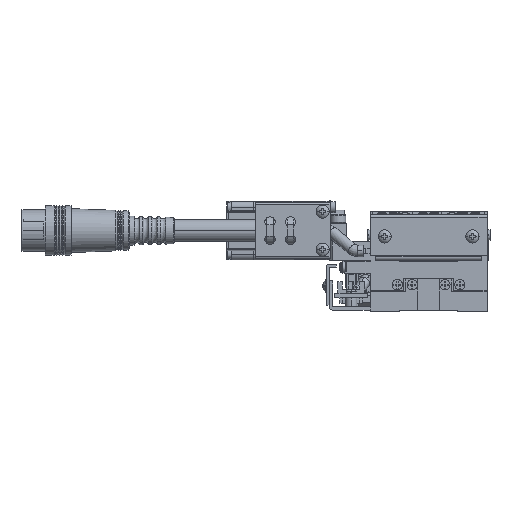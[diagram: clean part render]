
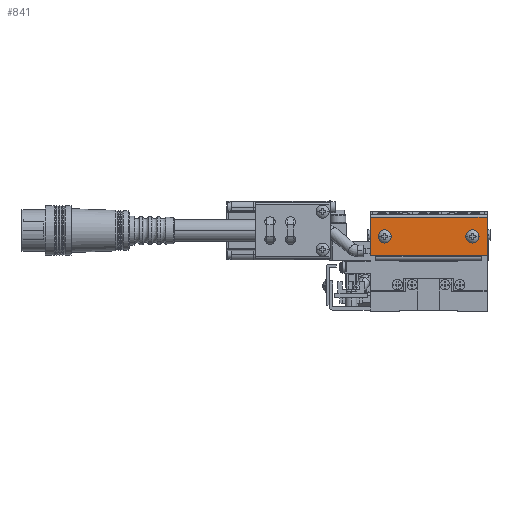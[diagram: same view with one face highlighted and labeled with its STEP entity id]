
A CAD part, left-side view. The second image highlights one B-rep face of the part: STEP entity #841.
In plain terms, the highlighted planar face has unit normal (-1, 0, 0).
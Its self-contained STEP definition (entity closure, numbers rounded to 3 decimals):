
#841=ADVANCED_FACE('',(#9146,#9147,#9148),#9145,.T.);
#9145=PLANE('',#40302);
#9146=FACE_OUTER_BOUND('',#40303,.T.);
#9147=FACE_BOUND('',#40304,.T.);
#9148=FACE_BOUND('',#40305,.T.);
#40299=CARTESIAN_POINT('',(-35.,24.,33.3));
#40300=DIRECTION('',(-1.,0.,0.));
#40301=DIRECTION('',(0.,0.,-1.));
#40302=AXIS2_PLACEMENT_3D('',#40299,#40300,#40301);
#40303=EDGE_LOOP('',(#61640,#61641,#61642,#61643));
#40304=EDGE_LOOP('',(#61644,#61645));
#40305=EDGE_LOOP('',(#61646,#61647,#61648));
#61640=ORIENTED_EDGE('',*,*,#76934,.F.);
#61641=ORIENTED_EDGE('',*,*,#76925,.T.);
#61642=ORIENTED_EDGE('',*,*,#76935,.T.);
#61643=ORIENTED_EDGE('',*,*,#76936,.T.);
#61644=ORIENTED_EDGE('',*,*,#76937,.F.);
#61645=ORIENTED_EDGE('',*,*,#76938,.F.);
#61646=ORIENTED_EDGE('',*,*,#76939,.T.);
#61647=ORIENTED_EDGE('',*,*,#76940,.T.);
#61648=ORIENTED_EDGE('',*,*,#76941,.T.);
#76925=EDGE_CURVE('',#96068,#96060,#96069,.T.);
#76934=EDGE_CURVE('',#96068,#96128,#96129,.T.);
#76935=EDGE_CURVE('',#96060,#96135,#96136,.T.);
#76936=EDGE_CURVE('',#96135,#96128,#96142,.T.);
#76937=EDGE_CURVE('',#96148,#96149,#96150,.T.);
#76938=EDGE_CURVE('',#96149,#96148,#96156,.T.);
#76939=EDGE_CURVE('',#96162,#96163,#96164,.T.);
#76940=EDGE_CURVE('',#96163,#96170,#96171,.T.);
#76941=EDGE_CURVE('',#96170,#96162,#96177,.T.);
#96060=VERTEX_POINT('',#145118);
#96068=VERTEX_POINT('',#145124);
#96069=LINE('',#145125,#145126);
#96128=VERTEX_POINT('',#145158);
#96129=LINE('',#145159,#145160);
#96135=VERTEX_POINT('',#145162);
#96136=LINE('',#145163,#145164);
#96142=LINE('',#145166,#145167);
#96148=VERTEX_POINT('',#145169);
#96149=VERTEX_POINT('',#145170);
#96150=CIRCLE('',#145174,2.25);
#96156=CIRCLE('',#145178,2.25);
#96162=VERTEX_POINT('',#145179);
#96163=VERTEX_POINT('',#145180);
#96164=CIRCLE('',#145184,2.25);
#96170=VERTEX_POINT('',#145185);
#96171=CIRCLE('',#145189,2.25);
#96177=CIRCLE('',#145193,2.25);
#145118=CARTESIAN_POINT('',(-35.,20.,32.));
#145124=CARTESIAN_POINT('',(-35.,-20.,32.));
#145125=CARTESIAN_POINT('',(-35.,-20.,32.));
#145126=VECTOR('',#145127,40.);
#145127=DIRECTION('',(0.,1.,0.));
#145158=CARTESIAN_POINT('',(-35.,-20.,19.));
#145159=CARTESIAN_POINT('',(-35.,-20.,32.));
#145160=VECTOR('',#145161,13.);
#145161=DIRECTION('',(0.,0.,-1.));
#145162=CARTESIAN_POINT('',(-35.,20.,19.));
#145163=CARTESIAN_POINT('',(-35.,20.,32.));
#145164=VECTOR('',#145165,13.);
#145165=DIRECTION('',(0.,0.,-1.));
#145166=CARTESIAN_POINT('',(-35.,20.,19.));
#145167=VECTOR('',#145168,40.);
#145168=DIRECTION('',(0.,-1.,0.));
#145169=CARTESIAN_POINT('',(-35.,12.75,25.5));
#145170=CARTESIAN_POINT('',(-35.,17.25,25.5));
#145171=CARTESIAN_POINT('',(-35.,15.,25.5));
#145172=DIRECTION('',(-1.,0.,0.));
#145173=DIRECTION('',(0.,1.,0.));
#145174=AXIS2_PLACEMENT_3D('',#145171,#145172,#145173);
#145175=CARTESIAN_POINT('',(-35.,15.,25.5));
#145176=DIRECTION('',(-1.,0.,0.));
#145177=DIRECTION('',(0.,1.,0.));
#145178=AXIS2_PLACEMENT_3D('',#145175,#145176,#145177);
#145179=CARTESIAN_POINT('',(-35.,-15.,27.75));
#145180=CARTESIAN_POINT('',(-35.,-17.25,25.5));
#145181=CARTESIAN_POINT('',(-35.,-15.,25.5));
#145182=DIRECTION('',(1.,0.,0.));
#145183=DIRECTION('',(0.,0.,1.));
#145184=AXIS2_PLACEMENT_3D('',#145181,#145182,#145183);
#145185=CARTESIAN_POINT('',(-35.,-12.75,25.5));
#145186=CARTESIAN_POINT('',(-35.,-15.,25.5));
#145187=DIRECTION('',(1.,0.,0.));
#145188=DIRECTION('',(0.,0.,1.));
#145189=AXIS2_PLACEMENT_3D('',#145186,#145187,#145188);
#145190=CARTESIAN_POINT('',(-35.,-15.,25.5));
#145191=DIRECTION('',(1.,0.,0.));
#145192=DIRECTION('',(0.,0.,1.));
#145193=AXIS2_PLACEMENT_3D('',#145190,#145191,#145192);
